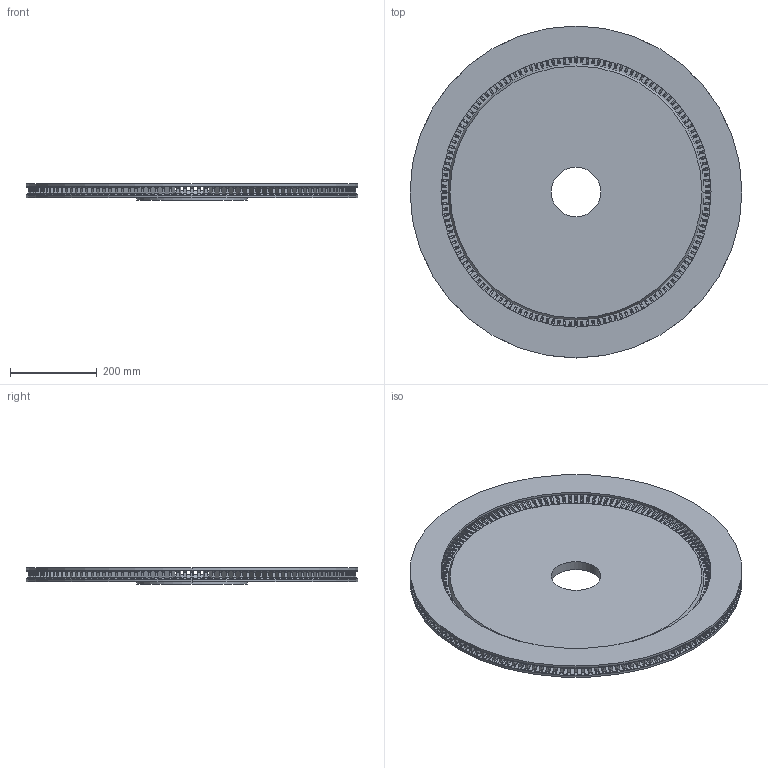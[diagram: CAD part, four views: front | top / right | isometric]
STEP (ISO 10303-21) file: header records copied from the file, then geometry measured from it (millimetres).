
FILE_DESCRIPTION (( 'STEP AP214' ), '1' );
FILE_NAME ('1.25-2.5-30.STEP', '2023-05-04T00:25:35', ( '' ), ( '' ), 'SwSTEP 2.0', 'SolidWorks 2023', '' );
FILE_SCHEMA (( 'AUTOMOTIVE_DESIGN' ));
Length unit declared in the file: inch
Products named in the file (1): 1.25-2.5-30
Bounding box: 765.3 x 765.3 x 38.1 mm (x, y, z)
Volume: 7573331.3 mm3; surface area: 1523771.9 mm2
Topology: 1 solids, 1 shells, 1466 faces, 5238 edges, 3489 vertices
Faces by surface type: cylinder 876, plane 437, cone 153
Entity records: 69890 total; most frequent: CARTESIAN_POINT 28090, ORIENTED_EDGE 10476, DIRECTION 7053, EDGE_CURVE 5238, VERTEX_POINT 3489, AXIS2_PLACEMENT_3D 2652, B_SPLINE_CURVE_WITH_KNOTS 2304, VECTOR 1749
